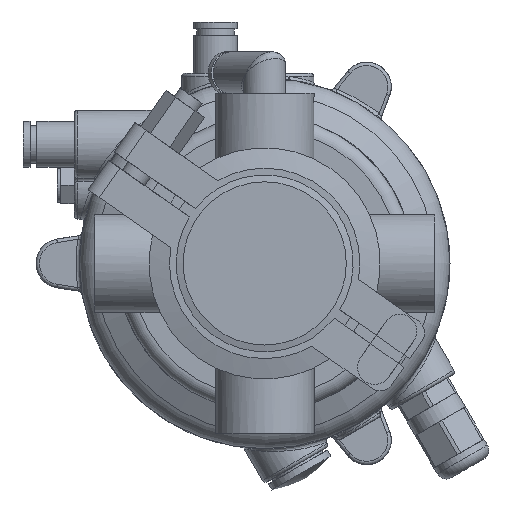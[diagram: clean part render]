
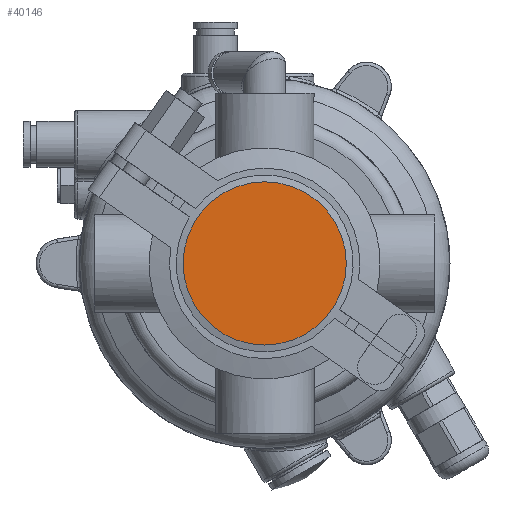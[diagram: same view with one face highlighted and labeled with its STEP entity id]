
A CAD part, front view. The second image highlights one B-rep face of the part: STEP entity #40146.
In plain terms, the highlighted planar face has unit normal (0, -1, 0).
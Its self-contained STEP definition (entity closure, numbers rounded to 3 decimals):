
#679 = CARTESIAN_POINT ( 'NONE',  ( 0., 0., 24. ) ) ;
#3693 = PLANE ( 'NONE',  #43795 ) ;
#5270 = VERTEX_POINT ( 'NONE', #679 ) ;
#13051 = FACE_OUTER_BOUND ( 'NONE', #55312, .T. ) ;
#15223 = ORIENTED_EDGE ( 'NONE', *, *, #20743, .F. ) ;
#16760 = CARTESIAN_POINT ( 'NONE',  ( 0., 0., 0. ) ) ;
#20743 = EDGE_CURVE ( 'NONE', #5270, #5270, #48777, .T. ) ;
#25609 = DIRECTION ( 'NONE',  ( 0., 1., 0. ) ) ;
#35144 = AXIS2_PLACEMENT_3D ( 'NONE', #16760, #25609, #49936 ) ;
#35895 = DIRECTION ( 'NONE',  ( 0., -1., 0. ) ) ;
#36193 = CARTESIAN_POINT ( 'NONE',  ( -24., 0., 0. ) ) ;
#40146 = ADVANCED_FACE ( 'NONE', ( #13051 ), #3693, .T. ) ;
#43795 = AXIS2_PLACEMENT_3D ( 'NONE', #36193, #35895, #54788 ) ;
#48777 = CIRCLE ( 'NONE', #35144, 24. ) ;
#49936 = DIRECTION ( 'NONE',  ( 0., 0., 1. ) ) ;
#54788 = DIRECTION ( 'NONE',  ( 0., 0., -1. ) ) ;
#55312 = EDGE_LOOP ( 'NONE', ( #15223 ) ) ;
